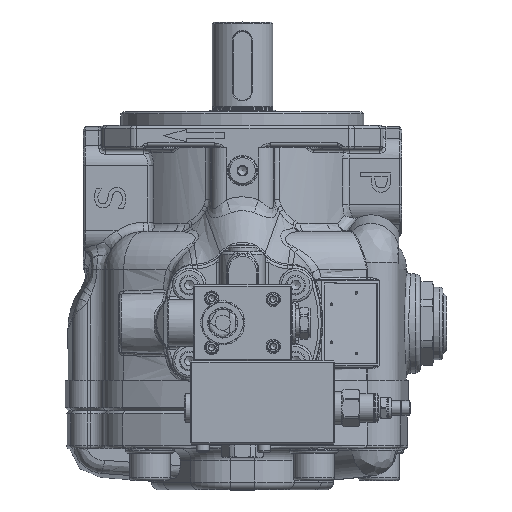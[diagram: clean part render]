
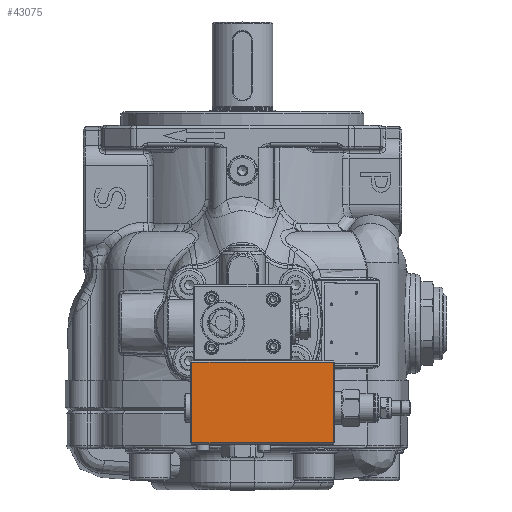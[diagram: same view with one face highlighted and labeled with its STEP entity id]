
A CAD part, top view. The second image highlights one B-rep face of the part: STEP entity #43075.
In plain terms, the highlighted planar face has unit normal (0, 0, 1).
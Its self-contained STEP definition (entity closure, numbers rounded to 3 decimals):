
#3971=LINE('',#88502,#6420);
#3972=LINE('',#88504,#6421);
#3973=LINE('',#88506,#6422);
#3974=LINE('',#88507,#6423);
#6420=VECTOR('',#56943,10.);
#6421=VECTOR('',#56944,10.);
#6422=VECTOR('',#56945,10.);
#6423=VECTOR('',#56946,10.);
#7531=PLANE('',#47045);
#9777=FACE_OUTER_BOUND('',#12336,.T.);
#12336=EDGE_LOOP('',(#36118,#36119,#36120,#36121));
#19235=VERTEX_POINT('',#88500);
#19236=VERTEX_POINT('',#88501);
#19237=VERTEX_POINT('',#88503);
#19238=VERTEX_POINT('',#88505);
#25024=EDGE_CURVE('',#19235,#19236,#3971,.T.);
#25025=EDGE_CURVE('',#19237,#19235,#3972,.T.);
#25026=EDGE_CURVE('',#19238,#19237,#3973,.T.);
#25027=EDGE_CURVE('',#19236,#19238,#3974,.T.);
#36118=ORIENTED_EDGE('',*,*,#25024,.F.);
#36119=ORIENTED_EDGE('',*,*,#25025,.F.);
#36120=ORIENTED_EDGE('',*,*,#25026,.F.);
#36121=ORIENTED_EDGE('',*,*,#25027,.F.);
#43075=ADVANCED_FACE('',(#9777),#7531,.T.);
#47045=AXIS2_PLACEMENT_3D('',#88499,#56941,#56942);
#56941=DIRECTION('center_axis',(0.,0.,
1.));
#56942=DIRECTION('ref_axis',(0.,1.,0.));
#56943=DIRECTION('',(-1.,0.,0.));
#56944=DIRECTION('',(0.,-1.,0.));
#56945=DIRECTION('',(1.,0.,0.));
#56946=DIRECTION('',(0.,1.,0.));
#88499=CARTESIAN_POINT('Origin',(64.311,-119.312,236.499));
#88500=CARTESIAN_POINT('',(63.311,-118.312,236.499));
#88501=CARTESIAN_POINT('',(-29.689,-118.312,236.499));
#88502=CARTESIAN_POINT('',(40.561,-118.312,236.499));
#88503=CARTESIAN_POINT('',(63.311,-65.312,236.499));
#88504=CARTESIAN_POINT('',(63.311,-119.312,236.499));
#88505=CARTESIAN_POINT('',(-29.689,-65.312,236.499));
#88506=CARTESIAN_POINT('',(40.561,-65.312,236.499));
#88507=CARTESIAN_POINT('',(-29.689,-119.312,236.499));
